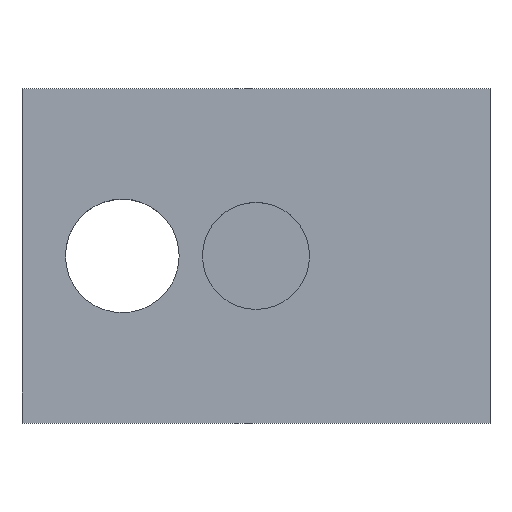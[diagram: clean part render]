
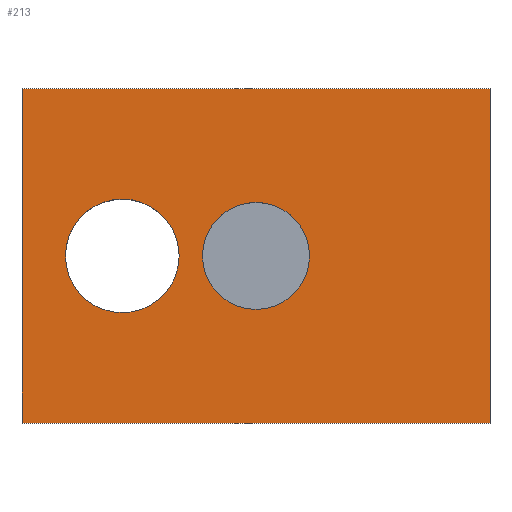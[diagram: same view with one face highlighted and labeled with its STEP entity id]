
A CAD part, top view. The second image highlights one B-rep face of the part: STEP entity #213.
In plain terms, the highlighted planar face has unit normal (0, 0, 1).
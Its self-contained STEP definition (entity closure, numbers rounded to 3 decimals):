
#24 = VERTEX_POINT('',#25);
#25 = CARTESIAN_POINT('',(-7.,-5.,2.));
#32 = PLANE('',#33);
#33 = AXIS2_PLACEMENT_3D('',#34,#35,#36);
#34 = CARTESIAN_POINT('',(-7.,-5.,-2.));
#35 = DIRECTION('',(1.,0.,0.));
#36 = DIRECTION('',(0.,0.,1.));
#44 = PLANE('',#45);
#45 = AXIS2_PLACEMENT_3D('',#46,#47,#48);
#46 = CARTESIAN_POINT('',(-7.,-5.,-2.));
#47 = DIRECTION('',(0.,1.,0.));
#48 = DIRECTION('',(0.,0.,1.));
#85 = VERTEX_POINT('',#86);
#86 = CARTESIAN_POINT('',(-7.,5.,2.));
#100 = PLANE('',#101);
#101 = AXIS2_PLACEMENT_3D('',#102,#103,#104);
#102 = CARTESIAN_POINT('',(-7.,5.,-2.));
#103 = DIRECTION('',(0.,1.,0.));
#104 = DIRECTION('',(0.,0.,1.));
#112 = EDGE_CURVE('',#24,#85,#113,.T.);
#113 = SURFACE_CURVE('',#114,(#118,#125),.PCURVE_S1.);
#114 = LINE('',#115,#116);
#115 = CARTESIAN_POINT('',(-7.,-5.,2.));
#116 = VECTOR('',#117,1.);
#117 = DIRECTION('',(0.,1.,0.));
#118 = PCURVE('',#32,#119);
#119 = DEFINITIONAL_REPRESENTATION('',(#120),#124);
#120 = LINE('',#121,#122);
#121 = CARTESIAN_POINT('',(4.,0.));
#122 = VECTOR('',#123,1.);
#123 = DIRECTION('',(0.,-1.));
#124 = ( GEOMETRIC_REPRESENTATION_CONTEXT(2) 
PARAMETRIC_REPRESENTATION_CONTEXT() REPRESENTATION_CONTEXT('2D SPACE',''
  ) );
#125 = PCURVE('',#126,#131);
#126 = PLANE('',#127);
#127 = AXIS2_PLACEMENT_3D('',#128,#129,#130);
#128 = CARTESIAN_POINT('',(-7.,-5.,2.));
#129 = DIRECTION('',(0.,0.,1.));
#130 = DIRECTION('',(1.,0.,0.));
#131 = DEFINITIONAL_REPRESENTATION('',(#132),#136);
#132 = LINE('',#133,#134);
#133 = CARTESIAN_POINT('',(0.,0.));
#134 = VECTOR('',#135,1.);
#135 = DIRECTION('',(0.,1.));
#136 = ( GEOMETRIC_REPRESENTATION_CONTEXT(2) 
PARAMETRIC_REPRESENTATION_CONTEXT() REPRESENTATION_CONTEXT('2D SPACE',''
  ) );
#165 = EDGE_CURVE('',#24,#166,#168,.T.);
#166 = VERTEX_POINT('',#167);
#167 = CARTESIAN_POINT('',(7.,-5.,2.));
#168 = SURFACE_CURVE('',#169,(#173,#180),.PCURVE_S1.);
#169 = LINE('',#170,#171);
#170 = CARTESIAN_POINT('',(-7.,-5.,2.));
#171 = VECTOR('',#172,1.);
#172 = DIRECTION('',(1.,0.,0.));
#173 = PCURVE('',#44,#174);
#174 = DEFINITIONAL_REPRESENTATION('',(#175),#179);
#175 = LINE('',#176,#177);
#176 = CARTESIAN_POINT('',(4.,0.));
#177 = VECTOR('',#178,1.);
#178 = DIRECTION('',(0.,1.));
#179 = ( GEOMETRIC_REPRESENTATION_CONTEXT(2) 
PARAMETRIC_REPRESENTATION_CONTEXT() REPRESENTATION_CONTEXT('2D SPACE',''
  ) );
#180 = PCURVE('',#126,#181);
#181 = DEFINITIONAL_REPRESENTATION('',(#182),#186);
#182 = LINE('',#183,#184);
#183 = CARTESIAN_POINT('',(0.,0.));
#184 = VECTOR('',#185,1.);
#185 = DIRECTION('',(1.,0.));
#186 = ( GEOMETRIC_REPRESENTATION_CONTEXT(2) 
PARAMETRIC_REPRESENTATION_CONTEXT() REPRESENTATION_CONTEXT('2D SPACE',''
  ) );
#202 = PLANE('',#203);
#203 = AXIS2_PLACEMENT_3D('',#204,#205,#206);
#204 = CARTESIAN_POINT('',(7.,-5.,-2.));
#205 = DIRECTION('',(1.,0.,0.));
#206 = DIRECTION('',(0.,0.,1.));
#213 = ADVANCED_FACE('',(#214,#262,#297),#126,.T.);
#214 = FACE_BOUND('',#215,.T.);
#215 = EDGE_LOOP('',(#216,#217,#218,#241));
#216 = ORIENTED_EDGE('',*,*,#112,.F.);
#217 = ORIENTED_EDGE('',*,*,#165,.T.);
#218 = ORIENTED_EDGE('',*,*,#219,.T.);
#219 = EDGE_CURVE('',#166,#220,#222,.T.);
#220 = VERTEX_POINT('',#221);
#221 = CARTESIAN_POINT('',(7.,5.,2.));
#222 = SURFACE_CURVE('',#223,(#227,#234),.PCURVE_S1.);
#223 = LINE('',#224,#225);
#224 = CARTESIAN_POINT('',(7.,-5.,2.));
#225 = VECTOR('',#226,1.);
#226 = DIRECTION('',(0.,1.,0.));
#227 = PCURVE('',#126,#228);
#228 = DEFINITIONAL_REPRESENTATION('',(#229),#233);
#229 = LINE('',#230,#231);
#230 = CARTESIAN_POINT('',(14.,0.));
#231 = VECTOR('',#232,1.);
#232 = DIRECTION('',(0.,1.));
#233 = ( GEOMETRIC_REPRESENTATION_CONTEXT(2) 
PARAMETRIC_REPRESENTATION_CONTEXT() REPRESENTATION_CONTEXT('2D SPACE',''
  ) );
#234 = PCURVE('',#202,#235);
#235 = DEFINITIONAL_REPRESENTATION('',(#236),#240);
#236 = LINE('',#237,#238);
#237 = CARTESIAN_POINT('',(4.,0.));
#238 = VECTOR('',#239,1.);
#239 = DIRECTION('',(0.,-1.));
#240 = ( GEOMETRIC_REPRESENTATION_CONTEXT(2) 
PARAMETRIC_REPRESENTATION_CONTEXT() REPRESENTATION_CONTEXT('2D SPACE',''
  ) );
#241 = ORIENTED_EDGE('',*,*,#242,.F.);
#242 = EDGE_CURVE('',#85,#220,#243,.T.);
#243 = SURFACE_CURVE('',#244,(#248,#255),.PCURVE_S1.);
#244 = LINE('',#245,#246);
#245 = CARTESIAN_POINT('',(-7.,5.,2.));
#246 = VECTOR('',#247,1.);
#247 = DIRECTION('',(1.,0.,0.));
#248 = PCURVE('',#126,#249);
#249 = DEFINITIONAL_REPRESENTATION('',(#250),#254);
#250 = LINE('',#251,#252);
#251 = CARTESIAN_POINT('',(0.,10.));
#252 = VECTOR('',#253,1.);
#253 = DIRECTION('',(1.,0.));
#254 = ( GEOMETRIC_REPRESENTATION_CONTEXT(2) 
PARAMETRIC_REPRESENTATION_CONTEXT() REPRESENTATION_CONTEXT('2D SPACE',''
  ) );
#255 = PCURVE('',#100,#256);
#256 = DEFINITIONAL_REPRESENTATION('',(#257),#261);
#257 = LINE('',#258,#259);
#258 = CARTESIAN_POINT('',(4.,0.));
#259 = VECTOR('',#260,1.);
#260 = DIRECTION('',(0.,1.));
#261 = ( GEOMETRIC_REPRESENTATION_CONTEXT(2) 
PARAMETRIC_REPRESENTATION_CONTEXT() REPRESENTATION_CONTEXT('2D SPACE',''
  ) );
#262 = FACE_BOUND('',#263,.T.);
#263 = EDGE_LOOP('',(#264));
#264 = ORIENTED_EDGE('',*,*,#265,.T.);
#265 = EDGE_CURVE('',#266,#266,#268,.T.);
#266 = VERTEX_POINT('',#267);
#267 = CARTESIAN_POINT('',(-5.7,0.,2.));
#268 = SURFACE_CURVE('',#269,(#274,#285),.PCURVE_S1.);
#269 = CIRCLE('',#270,1.7);
#270 = AXIS2_PLACEMENT_3D('',#271,#272,#273);
#271 = CARTESIAN_POINT('',(-4.,0.,2.));
#272 = DIRECTION('',(0.,0.,-1.));
#273 = DIRECTION('',(-1.,0.,0.));
#274 = PCURVE('',#126,#275);
#275 = DEFINITIONAL_REPRESENTATION('',(#276),#284);
#276 = ( BOUNDED_CURVE() B_SPLINE_CURVE(2,(#277,#278,#279,#280,#281,#282
,#283),.UNSPECIFIED.,.T.,.F.) B_SPLINE_CURVE_WITH_KNOTS((1,2,2,2,2,1),(
    -2.094,0.,2.094,4.189,6.283,
8.378),.UNSPECIFIED.) CURVE() GEOMETRIC_REPRESENTATION_ITEM() 
RATIONAL_B_SPLINE_CURVE((1.,0.5,1.,0.5,1.,0.5,1.)) REPRESENTATION_ITEM(
  '') );
#277 = CARTESIAN_POINT('',(1.3,5.));
#278 = CARTESIAN_POINT('',(1.3,7.944));
#279 = CARTESIAN_POINT('',(3.85,6.472));
#280 = CARTESIAN_POINT('',(6.4,5.));
#281 = CARTESIAN_POINT('',(3.85,3.528));
#282 = CARTESIAN_POINT('',(1.3,2.056));
#283 = CARTESIAN_POINT('',(1.3,5.));
#284 = ( GEOMETRIC_REPRESENTATION_CONTEXT(2) 
PARAMETRIC_REPRESENTATION_CONTEXT() REPRESENTATION_CONTEXT('2D SPACE',''
  ) );
#285 = PCURVE('',#286,#291);
#286 = CYLINDRICAL_SURFACE('',#287,1.7);
#287 = AXIS2_PLACEMENT_3D('',#288,#289,#290);
#288 = CARTESIAN_POINT('',(-4.,0.,2.));
#289 = DIRECTION('',(0.,0.,-1.));
#290 = DIRECTION('',(-1.,0.,0.));
#291 = DEFINITIONAL_REPRESENTATION('',(#292),#296);
#292 = LINE('',#293,#294);
#293 = CARTESIAN_POINT('',(0.,0.));
#294 = VECTOR('',#295,1.);
#295 = DIRECTION('',(1.,0.));
#296 = ( GEOMETRIC_REPRESENTATION_CONTEXT(2) 
PARAMETRIC_REPRESENTATION_CONTEXT() REPRESENTATION_CONTEXT('2D SPACE',''
  ) );
#297 = FACE_BOUND('',#298,.T.);
#298 = EDGE_LOOP('',(#299));
#299 = ORIENTED_EDGE('',*,*,#300,.T.);
#300 = EDGE_CURVE('',#301,#301,#303,.T.);
#301 = VERTEX_POINT('',#302);
#302 = CARTESIAN_POINT('',(-1.6,0.,2.));
#303 = SURFACE_CURVE('',#304,(#309,#320),.PCURVE_S1.);
#304 = CIRCLE('',#305,1.6);
#305 = AXIS2_PLACEMENT_3D('',#306,#307,#308);
#306 = CARTESIAN_POINT('',(0.,0.,2.));
#307 = DIRECTION('',(0.,0.,-1.));
#308 = DIRECTION('',(-1.,0.,0.));
#309 = PCURVE('',#126,#310);
#310 = DEFINITIONAL_REPRESENTATION('',(#311),#319);
#311 = ( BOUNDED_CURVE() B_SPLINE_CURVE(2,(#312,#313,#314,#315,#316,#317
,#318),.UNSPECIFIED.,.T.,.F.) B_SPLINE_CURVE_WITH_KNOTS((1,2,2,2,2,1),(
    -2.094,0.,2.094,4.189,6.283,
8.378),.UNSPECIFIED.) CURVE() GEOMETRIC_REPRESENTATION_ITEM() 
RATIONAL_B_SPLINE_CURVE((1.,0.5,1.,0.5,1.,0.5,1.)) REPRESENTATION_ITEM(
  '') );
#312 = CARTESIAN_POINT('',(5.4,5.));
#313 = CARTESIAN_POINT('',(5.4,7.771));
#314 = CARTESIAN_POINT('',(7.8,6.386));
#315 = CARTESIAN_POINT('',(10.2,5.));
#316 = CARTESIAN_POINT('',(7.8,3.614));
#317 = CARTESIAN_POINT('',(5.4,2.229));
#318 = CARTESIAN_POINT('',(5.4,5.));
#319 = ( GEOMETRIC_REPRESENTATION_CONTEXT(2) 
PARAMETRIC_REPRESENTATION_CONTEXT() REPRESENTATION_CONTEXT('2D SPACE',''
  ) );
#320 = PCURVE('',#321,#326);
#321 = CYLINDRICAL_SURFACE('',#322,1.6);
#322 = AXIS2_PLACEMENT_3D('',#323,#324,#325);
#323 = CARTESIAN_POINT('',(0.,0.,2.));
#324 = DIRECTION('',(0.,0.,-1.));
#325 = DIRECTION('',(-1.,0.,0.));
#326 = DEFINITIONAL_REPRESENTATION('',(#327),#331);
#327 = LINE('',#328,#329);
#328 = CARTESIAN_POINT('',(0.,0.));
#329 = VECTOR('',#330,1.);
#330 = DIRECTION('',(1.,0.));
#331 = ( GEOMETRIC_REPRESENTATION_CONTEXT(2) 
PARAMETRIC_REPRESENTATION_CONTEXT() REPRESENTATION_CONTEXT('2D SPACE',''
  ) );
